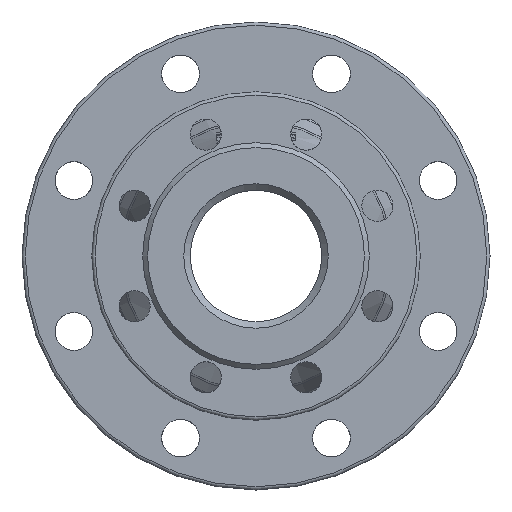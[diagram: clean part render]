
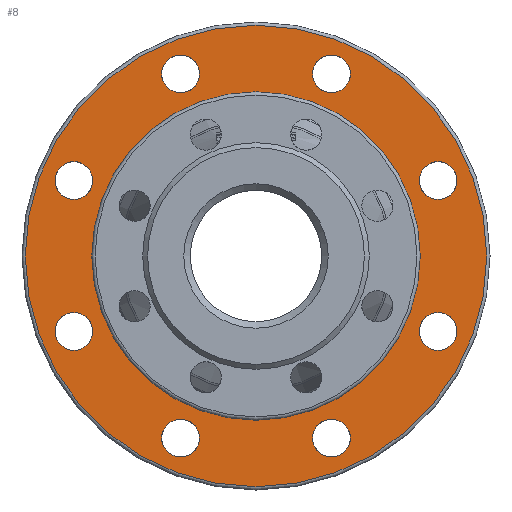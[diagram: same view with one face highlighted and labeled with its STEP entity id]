
A CAD part, left-side view. The second image highlights one B-rep face of the part: STEP entity #8.
In plain terms, the highlighted planar face has unit normal (-1, 0, 0).
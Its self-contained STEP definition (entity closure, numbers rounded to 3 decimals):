
#8 = ADVANCED_FACE ( 'NONE', ( #1765, #2354, #2564, #754, #526, #132, #1540, #1340, #327, #2167 ), #351, .F. ) ;
#81 = VERTEX_POINT ( 'NONE', #2306 ) ;
#83 = ORIENTED_EDGE ( 'NONE', *, *, #1298, .T. ) ;
#96 = CARTESIAN_POINT ( 'NONE',  ( 181., -110.866, -57.422 ) ) ;
#100 = DIRECTION ( 'NONE',  ( 0., 0., -1. ) ) ;
#103 = CIRCLE ( 'NONE', #1719, 11.5 ) ;
#132 = FACE_BOUND ( 'NONE', #1141, .T. ) ;
#134 = ORIENTED_EDGE ( 'NONE', *, *, #747, .T. ) ;
#145 = EDGE_CURVE ( 'NONE', #2096, #2096, #1250, .T. ) ;
#160 = DIRECTION ( 'NONE',  ( 0., 0., -1. ) ) ;
#184 = CARTESIAN_POINT ( 'NONE',  ( 181., 0., 0. ) ) ;
#233 = CARTESIAN_POINT ( 'NONE',  ( 181., 45.922, -122.366 ) ) ;
#272 = AXIS2_PLACEMENT_3D ( 'NONE', #2351, #2539, #1414 ) ;
#304 = VERTEX_POINT ( 'NONE', #2160 ) ;
#327 = FACE_BOUND ( 'NONE', #806, .T. ) ;
#329 = AXIS2_PLACEMENT_3D ( 'NONE', #2199, #623, #380 ) ;
#351 = PLANE ( 'NONE',  #1205 ) ;
#380 = DIRECTION ( 'NONE',  ( 0., 0., -1. ) ) ;
#429 = CARTESIAN_POINT ( 'NONE',  ( 181., 110.866, 34.422 ) ) ;
#475 = CARTESIAN_POINT ( 'NONE',  ( 181., -45.922, -122.366 ) ) ;
#491 = VERTEX_POINT ( 'NONE', #2575 ) ;
#510 = CIRCLE ( 'NONE', #1670, 11.5 ) ;
#513 = AXIS2_PLACEMENT_3D ( 'NONE', #1720, #947, #1941 ) ;
#525 = EDGE_CURVE ( 'NONE', #1898, #1898, #1536, .T. ) ;
#526 = FACE_BOUND ( 'NONE', #1722, .T. ) ;
#555 = AXIS2_PLACEMENT_3D ( 'NONE', #1188, #2382, #769 ) ;
#589 = DIRECTION ( 'NONE',  ( 1., 0., 0. ) ) ;
#590 = CIRCLE ( 'NONE', #555, 11.5 ) ;
#623 = DIRECTION ( 'NONE',  ( 1., 0., 0. ) ) ;
#648 = CIRCLE ( 'NONE', #2132, 11.5 ) ;
#649 = CIRCLE ( 'NONE', #329, 11.5 ) ;
#654 = CIRCLE ( 'NONE', #272, 93.185 ) ;
#728 = DIRECTION ( 'NONE',  ( 1., 0., 0. ) ) ;
#733 = CARTESIAN_POINT ( 'NONE',  ( 181., 45.922, 99.366 ) ) ;
#745 = ORIENTED_EDGE ( 'NONE', *, *, #1068, .T. ) ;
#747 = EDGE_CURVE ( 'NONE', #1882, #1882, #1596, .T. ) ;
#748 = CARTESIAN_POINT ( 'NONE',  ( 181., -45.922, 99.366 ) ) ;
#754 = FACE_BOUND ( 'NONE', #1301, .T. ) ;
#758 = CARTESIAN_POINT ( 'NONE',  ( 181., -45.922, -110.866 ) ) ;
#769 = DIRECTION ( 'NONE',  ( 0., 0., -1. ) ) ;
#779 = DIRECTION ( 'NONE',  ( 0., 0., -1. ) ) ;
#800 = DIRECTION ( 'NONE',  ( -1., 0., 0. ) ) ;
#806 = EDGE_LOOP ( 'NONE', ( #1029 ) ) ;
#830 = DIRECTION ( 'NONE',  ( 0., 0., -1. ) ) ;
#907 = DIRECTION ( 'NONE',  ( 0., 0., -1. ) ) ;
#947 = DIRECTION ( 'NONE',  ( 1., 0., 0. ) ) ;
#1029 = ORIENTED_EDGE ( 'NONE', *, *, #145, .T. ) ;
#1068 = EDGE_CURVE ( 'NONE', #2080, #2080, #648, .T. ) ;
#1096 = CARTESIAN_POINT ( 'NONE',  ( 181., 45.922, -110.866 ) ) ;
#1141 = EDGE_LOOP ( 'NONE', ( #1844 ) ) ;
#1165 = DIRECTION ( 'NONE',  ( 1., 0., 0. ) ) ;
#1188 = CARTESIAN_POINT ( 'NONE',  ( 181., -45.922, 110.866 ) ) ;
#1205 = AXIS2_PLACEMENT_3D ( 'NONE', #2543, #728, #2342 ) ;
#1243 = EDGE_CURVE ( 'NONE', #81, #81, #103, .T. ) ;
#1250 = CIRCLE ( 'NONE', #2594, 11.5 ) ;
#1273 = ORIENTED_EDGE ( 'NONE', *, *, #1243, .T. ) ;
#1289 = ORIENTED_EDGE ( 'NONE', *, *, #525, .T. ) ;
#1298 = EDGE_CURVE ( 'NONE', #491, #491, #649, .T. ) ;
#1301 = EDGE_LOOP ( 'NONE', ( #134 ) ) ;
#1302 = EDGE_LOOP ( 'NONE', ( #1289 ) ) ;
#1327 = EDGE_CURVE ( 'NONE', #2567, #2567, #2062, .T. ) ;
#1331 = CARTESIAN_POINT ( 'NONE',  ( 181., 0., -140.5 ) ) ;
#1340 = FACE_BOUND ( 'NONE', #1302, .T. ) ;
#1414 = DIRECTION ( 'NONE',  ( 0., 0., -1. ) ) ;
#1527 = DIRECTION ( 'NONE',  ( 1., 0., 0. ) ) ;
#1533 = EDGE_LOOP ( 'NONE', ( #2075 ) ) ;
#1536 = CIRCLE ( 'NONE', #513, 11.5 ) ;
#1540 = FACE_BOUND ( 'NONE', #1656, .T. ) ;
#1549 = EDGE_CURVE ( 'NONE', #1556, #1556, #590, .T. ) ;
#1556 = VERTEX_POINT ( 'NONE', #748 ) ;
#1594 = AXIS2_PLACEMENT_3D ( 'NONE', #184, #800, #100 ) ;
#1596 = CIRCLE ( 'NONE', #2319, 11.5 ) ;
#1646 = EDGE_LOOP ( 'NONE', ( #745 ) ) ;
#1656 = EDGE_LOOP ( 'NONE', ( #1273 ) ) ;
#1670 = AXIS2_PLACEMENT_3D ( 'NONE', #2067, #2108, #907 ) ;
#1700 = ORIENTED_EDGE ( 'NONE', *, *, #1327, .T. ) ;
#1719 = AXIS2_PLACEMENT_3D ( 'NONE', #2027, #1848, #830 ) ;
#1720 = CARTESIAN_POINT ( 'NONE',  ( 181., -110.866, -45.922 ) ) ;
#1722 = EDGE_LOOP ( 'NONE', ( #2328 ) ) ;
#1765 = FACE_BOUND ( 'NONE', #1533, .T. ) ;
#1838 = EDGE_LOOP ( 'NONE', ( #1700 ) ) ;
#1843 = EDGE_CURVE ( 'NONE', #304, #304, #654, .T. ) ;
#1844 = ORIENTED_EDGE ( 'NONE', *, *, #1549, .T. ) ;
#1848 = DIRECTION ( 'NONE',  ( 1., 0., 0. ) ) ;
#1882 = VERTEX_POINT ( 'NONE', #429 ) ;
#1898 = VERTEX_POINT ( 'NONE', #96 ) ;
#1941 = DIRECTION ( 'NONE',  ( 0., 0., -1. ) ) ;
#2027 = CARTESIAN_POINT ( 'NONE',  ( 181., -110.866, 45.922 ) ) ;
#2062 = CIRCLE ( 'NONE', #1594, 140.5 ) ;
#2067 = CARTESIAN_POINT ( 'NONE',  ( 181., 45.922, 110.866 ) ) ;
#2075 = ORIENTED_EDGE ( 'NONE', *, *, #1843, .T. ) ;
#2080 = VERTEX_POINT ( 'NONE', #233 ) ;
#2096 = VERTEX_POINT ( 'NONE', #475 ) ;
#2101 = DIRECTION ( 'NONE',  ( 0., 0., -1. ) ) ;
#2108 = DIRECTION ( 'NONE',  ( 1., 0., 0. ) ) ;
#2132 = AXIS2_PLACEMENT_3D ( 'NONE', #1096, #1527, #2101 ) ;
#2136 = VERTEX_POINT ( 'NONE', #733 ) ;
#2160 = CARTESIAN_POINT ( 'NONE',  ( 181., 0., -93.185 ) ) ;
#2167 = FACE_BOUND ( 'NONE', #1646, .T. ) ;
#2199 = CARTESIAN_POINT ( 'NONE',  ( 181., 110.866, -45.922 ) ) ;
#2213 = EDGE_LOOP ( 'NONE', ( #83 ) ) ;
#2306 = CARTESIAN_POINT ( 'NONE',  ( 181., -110.866, 34.422 ) ) ;
#2319 = AXIS2_PLACEMENT_3D ( 'NONE', #2411, #589, #160 ) ;
#2328 = ORIENTED_EDGE ( 'NONE', *, *, #2590, .T. ) ;
#2342 = DIRECTION ( 'NONE',  ( 0., 0., -1. ) ) ;
#2351 = CARTESIAN_POINT ( 'NONE',  ( 181., 0., 0. ) ) ;
#2354 = FACE_OUTER_BOUND ( 'NONE', #1838, .T. ) ;
#2382 = DIRECTION ( 'NONE',  ( 1., 0., 0. ) ) ;
#2411 = CARTESIAN_POINT ( 'NONE',  ( 181., 110.866, 45.922 ) ) ;
#2539 = DIRECTION ( 'NONE',  ( 1., 0., 0. ) ) ;
#2543 = CARTESIAN_POINT ( 'NONE',  ( 181., 90., 0. ) ) ;
#2564 = FACE_BOUND ( 'NONE', #2213, .T. ) ;
#2567 = VERTEX_POINT ( 'NONE', #1331 ) ;
#2575 = CARTESIAN_POINT ( 'NONE',  ( 181., 110.866, -57.422 ) ) ;
#2590 = EDGE_CURVE ( 'NONE', #2136, #2136, #510, .T. ) ;
#2594 = AXIS2_PLACEMENT_3D ( 'NONE', #758, #1165, #779 ) ;
